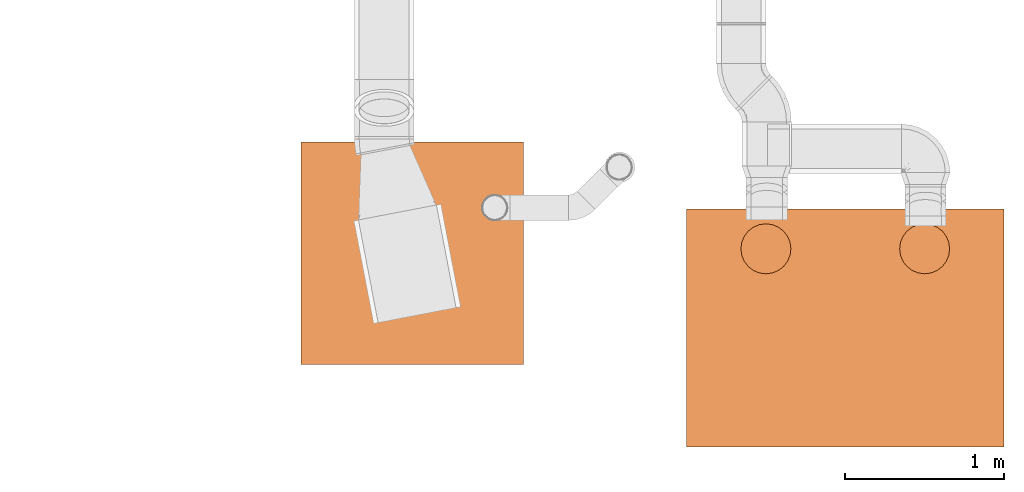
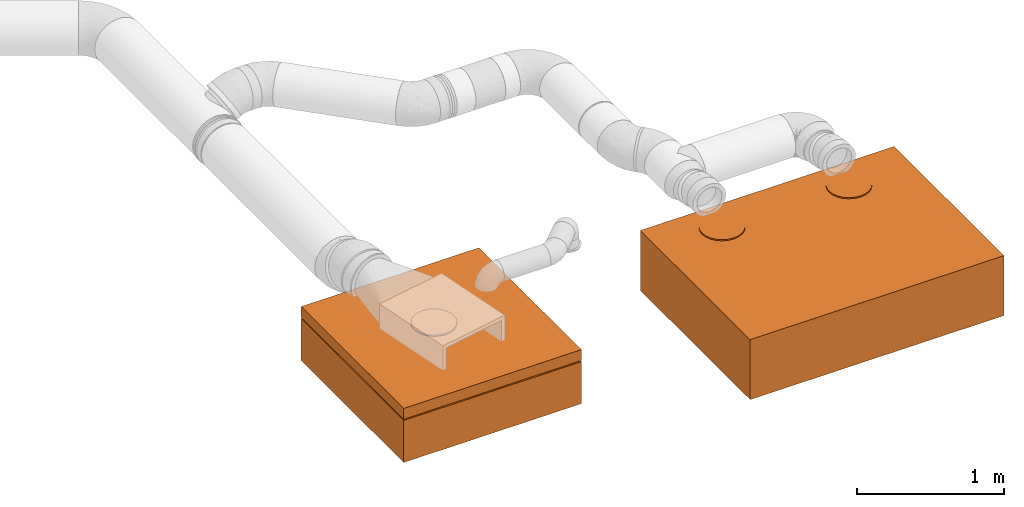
# One storey, part 21 of 21: 2 proxies.
"""IFC2X3 building model written with IfcOpenShell, lengths in millimetres."""

import ifcopenshell
import ifcopenshell.guid

model = None  # the IFC model being written
_history = None  # IfcOwnerHistory: only IFC2X3 demands one
_inside = {}  # id of a spatial element -> (the spatial element, [elements in it])
_under = {}  # id of a project, library or spatial element -> (it, [spatial elements below it])
_declared = {}  # id of a project -> (the project, [libraries it declares])
_typed = {}  # id of a type object -> (the type object, [elements of that type])
_made_of = {}  # id of a material, layer set ... -> (it, [elements and type objects made of it])


def new_model(schema):
    """Start an empty IFC model of exactly this schema.

    Asked for "IFC4X3", IfcOpenShell would pick the latest addendum, in which some entities
    have other attributes; the version numbers below select the first issue.
    IFC2X3 requires an IfcOwnerHistory on every rooted entity: one is made here for all.
    """
    global model, _history
    if schema == "IFC4X3":
        model = ifcopenshell.file(schema_version=(4, 3, 0, 0))
    else:
        model = ifcopenshell.file(schema=schema)
    _inside.clear()
    _under.clear()
    _declared.clear()
    _typed.clear()
    _made_of.clear()
    _history = None
    if model.schema == "IFC2X3":
        org = make("IfcOrganization", Name="unknown")
        user = make(
            "IfcPersonAndOrganization",
            ThePerson=make("IfcPerson", FamilyName="unknown"),
            TheOrganization=org,
        )
        app = make(
            "IfcApplication",
            ApplicationDeveloper=org,
            Version="unknown",
            ApplicationFullName="unknown",
            ApplicationIdentifier="unknown",
        )
        _history = make(
            "IfcOwnerHistory",
            OwningUser=user,
            OwningApplication=app,
            ChangeAction="ADDED",
            CreationDate=0,
        )
    return model


def make(cls, **values):
    """One entity of the class cls with the attributes given. An attribute that is None is left unset."""
    return model.create_entity(
        cls, **{name: value for name, value in values.items() if value is not None}
    )


def entity(cls, *values):
    """Any entity or typed value of the class cls, its attributes in the order of the schema. None: left unset."""
    e = model.create_entity(cls)
    for i, value in enumerate(values):
        if value is not None:
            e[i] = value
    return e


def rooted(cls, **values):
    """An entity with a GlobalId (a new one), such as an element, a storey or a relation."""
    return make(cls, GlobalId=ifcopenshell.guid.new(), OwnerHistory=_history, **values)


def si_unit(unit_type, name, prefix=None):
    """IfcSIUnit, for example si_unit("LENGTHUNIT", "METRE", prefix="MILLI")."""
    return make("IfcSIUnit", UnitType=unit_type, Prefix=prefix, Name=name)


def converted_unit(unit_type, name, factor, base, dimensions=None, offset=None):
    """IfcConversionBasedUnit, such as the inch: factor (a typed value) times the base unit."""
    return make(
        "IfcConversionBasedUnit"
        if offset is None
        else "IfcConversionBasedUnitWithOffset",
        ConversionOffset=offset,
        Dimensions=None
        if dimensions is None
        else entity("IfcDimensionalExponents", *dimensions),
        UnitType=unit_type,
        Name=name,
        ConversionFactor=make(
            "IfcMeasureWithUnit", ValueComponent=factor, UnitComponent=base
        ),
    )


def derived_unit(unit_type, elements):
    """IfcDerivedUnit: a product of units, each with its exponent."""
    return make(
        "IfcDerivedUnit",
        Elements=[
            make("IfcDerivedUnitElement", Unit=unit, Exponent=power)
            for unit, power in elements
        ],
        UnitType=unit_type,
    )


def assignment(units):
    """IfcUnitAssignment: the units of a project."""
    return None if units is None else make("IfcUnitAssignment", Units=units)


def point(xyz):
    """IfcCartesianPoint."""
    return None if xyz is None else make("IfcCartesianPoint", Coordinates=xyz)


def direction(xyz):
    """IfcDirection."""
    return None if xyz is None else make("IfcDirection", DirectionRatios=xyz)


def frame(location, z_axis=None, x_axis=None):
    """IfcAxis2Placement3D, a coordinate frame: its origin and axes. An axis left out is left unset."""
    return make(
        "IfcAxis2Placement3D",
        Location=point(location),
        Axis=direction(z_axis),
        RefDirection=direction(x_axis),
    )


def origin_with_axes():
    """The frame at (0, 0, 0) with the z axis (0, 0, 1) and the x axis (1, 0, 0) written out."""
    return frame((0.0, 0.0, 0.0), z_axis=(0.0, 0.0, 1.0), x_axis=(1.0, 0.0, 0.0))


def place(relative_to, where):
    """IfcLocalPlacement: puts the frame where relative to a parent placement (None: the world)."""
    return make(
        "IfcLocalPlacement", PlacementRelTo=relative_to, RelativePlacement=where
    )


def context(
    kind, dimensions, precision=None, world=None, true_north=None, identifier=None
):
    """IfcGeometricRepresentationContext, for example the 3D "Model" context."""
    return make(
        "IfcGeometricRepresentationContext",
        ContextIdentifier=identifier,
        ContextType=kind,
        CoordinateSpaceDimension=dimensions,
        Precision=precision,
        WorldCoordinateSystem=world,
        TrueNorth=true_north,
    )


def subcontext(parent, identifier, kind, view, scale=None):
    """IfcGeometricRepresentationSubContext, for example "Body" below "Model"."""
    return make(
        "IfcGeometricRepresentationSubContext",
        ContextIdentifier=identifier,
        ContextType=kind,
        ParentContext=parent,
        TargetScale=scale,
        TargetView=view,
    )


def project(units=None, contexts=None):
    """IfcProject with its units and contexts."""
    return rooted(
        "IfcProject",
        Name="project",
        RepresentationContexts=contexts,
        UnitsInContext=assignment(units),
    )


def spatial(cls, under=None, at=None, **own):
    """A site, building, storey or space (cls), placed at a placement, below another one or the project."""
    s = rooted(cls, ObjectPlacement=at, **own)
    if under is not None:
        _under.setdefault(under.id(), (under, []))[1].append(s)
    return s


def faces_of(points, faces, orient=None, outer=None):
    """IfcFace entities. A face is a list of loops; a loop is a list of indices into points, from 0.

    orient and outer hold one flag for each loop. By default every Orientation is true, the
    first loop of a face is its IfcFaceOuterBound and the others are IfcFaceBound.
    """
    made = []
    for i, loops in enumerate(faces):
        bounds = []
        for j, loop in enumerate(loops):
            is_outer = j == 0 if outer is None else outer[i][j]
            bounds.append(
                make(
                    "IfcFaceOuterBound" if is_outer else "IfcFaceBound",
                    Bound=make("IfcPolyLoop", Polygon=[points[k] for k in loop]),
                    Orientation=True if orient is None else orient[i][j],
                )
            )
        made.append(make("IfcFace", Bounds=bounds))
    return made


def open_shell(faces, orient=None, outer=None):
    """The faces of one IfcOpenShell. surface_model builds it on its shared points."""
    return ("IfcOpenShell", faces, orient, outer)


def surface_model(cls, points, shells):
    """IfcFaceBasedSurfaceModel or IfcShellBasedSurfaceModel (cls): surfaces that need not close."""
    shared = [point(p) for p in points]
    made = [make(c, CfsFaces=faces_of(shared, fs, o, b)) for c, fs, o, b in shells]
    if cls == "IfcFaceBasedSurfaceModel":
        return make(cls, FbsmFaces=made)
    return make(cls, SbsmBoundary=made)


def shape(context_of_items, identifier, shape_type, items):
    """IfcShapeRepresentation: the items that make up one representation, for example the "Body"."""
    return make(
        "IfcShapeRepresentation",
        ContextOfItems=context_of_items,
        RepresentationIdentifier=identifier,
        RepresentationType=shape_type,
        Items=items,
    )


def source(mapping_origin, context_of_items, identifier, shape_type, items):
    """IfcRepresentationMap: a shape defined once, which mapped items show again and again."""
    return make(
        "IfcRepresentationMap",
        MappingOrigin=mapping_origin,
        MappedRepresentation=shape(context_of_items, identifier, shape_type, items),
    )


def transform(
    local_origin,
    x_axis=None,
    y_axis=None,
    z_axis=None,
    scale=None,
    scale2=None,
    scale3=None,
    uniform=True,
):
    """IfcCartesianTransformationOperator3D, or its non-uniform kind. x_axis, y_axis, z_axis: its Axis1, 2, 3."""
    if uniform:
        return make(
            "IfcCartesianTransformationOperator3D",
            Axis1=direction(x_axis),
            Axis2=direction(y_axis),
            LocalOrigin=point(local_origin),
            Scale=scale,
            Axis3=direction(z_axis),
        )
    return make(
        "IfcCartesianTransformationOperator3DnonUniform",
        Axis1=direction(x_axis),
        Axis2=direction(y_axis),
        LocalOrigin=point(local_origin),
        Scale=scale,
        Axis3=direction(z_axis),
        Scale2=scale2,
        Scale3=scale3,
    )


def mapped(mapping_source, mapping_target):
    """IfcMappedItem: shows the shape of a source again, moved by a transform."""
    return make(
        "IfcMappedItem", MappingSource=mapping_source, MappingTarget=mapping_target
    )


def made_of(thing, what):
    """Note that an element or type object is made of a material, layer set ...; save() writes the relation."""
    if what is not None:
        _made_of.setdefault(what.id(), (what, []))[1].append(thing)
    return thing


def element(
    cls,
    number,
    at=None,
    inside=None,
    cuts=None,
    type_object=None,
    material=None,
    context=None,
    identifier="Body",
    shape_type=None,
    held_by="IfcProductDefinitionShape",
    body=None,
    shapes=None,
    **own,
):
    """One element of the class cls, such as IfcWall. Its Tag is "e" and its number.

    at: its placement. inside: the storey or other place that contains it. cuts: it is an
    opening in that element (IfcRelVoidsElement). A single representation is given by context,
    identifier, shape_type and body (its items); several are given by shapes. held_by: the class
    of the entity that holds the representations. save() writes the other relations.
    """
    e = rooted(cls, Tag="e%d" % number, ObjectPlacement=at, **own)
    if body is not None:
        shapes = [shape(context, identifier, shape_type, body)]
    if shapes is not None:
        e.Representation = make(held_by, Representations=shapes)
    if inside is not None:
        _inside.setdefault(inside.id(), (inside, []))[1].append(e)
    if cuts is not None:
        rooted(
            "IfcRelVoidsElement", RelatingBuildingElement=cuts, RelatedOpeningElement=e
        )
    if type_object is not None:
        _typed.setdefault(type_object.id(), (type_object, []))[1].append(e)
    return made_of(e, material)


def aggregate(whole, parts):
    """IfcRelAggregates: a whole, such as a stair, and the parts it consists of."""
    return rooted("IfcRelAggregates", RelatingObject=whole, RelatedObjects=parts)


def save(model, path):
    """Write the relations noted so far, then the file.

    IfcRelAggregates (storeys below a building ...), IfcRelContainedInSpatialStructure (elements
    in a storey), IfcRelDefinesByType, IfcRelAssociatesMaterial and IfcRelDeclares: one each for
    every whole, place, type object, material and project.
    """
    for whole, parts in _under.values():
        aggregate(whole, parts)
    for where, things in _inside.values():
        rooted(
            "IfcRelContainedInSpatialStructure",
            RelatedElements=things,
            RelatingStructure=where,
        )
    for kind, things in _typed.values():
        rooted("IfcRelDefinesByType", RelatedObjects=things, RelatingType=kind)
    for what, things in _made_of.values():
        rooted("IfcRelAssociatesMaterial", RelatedObjects=things, RelatingMaterial=what)
    for by, libraries in _declared.values():
        rooted("IfcRelDeclares", RelatingContext=by, RelatedDefinitions=libraries)
    model.write(path)


model = new_model("IFC2X3")

# Units and contexts
model_context = context("Model", 3, precision=0.01, world=frame((0.0, 4.29681676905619e-09, 0.0)), true_north=direction((4.01073788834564e-13, 1.0)))
plan_context = context("Plan", 3, precision=0.01, world=frame((0.0, 4.29681676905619e-09, 0.0)), true_north=direction((4.01073788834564e-13, 1.0)))
body_context = subcontext(model_context, "Body", "Model", "MODEL_VIEW")
ifc_project = project(units=[converted_unit("PLANEANGLEUNIT", "DEGREE", entity("IfcPositiveLengthMeasure", 0.0174532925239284), si_unit("PLANEANGLEUNIT", "RADIAN"), dimensions=[0, 0, 0, 0, 0, 0, 0]), si_unit("AREAUNIT", "SQUARE_METRE"), si_unit("LENGTHUNIT", "METRE", prefix="MILLI"), si_unit("MASSUNIT", "GRAM", prefix="KILO"), si_unit("POWERUNIT", "WATT"), si_unit("PRESSUREUNIT", "PASCAL"), si_unit("FORCEUNIT", "NEWTON", prefix="KILO"), si_unit("ELECTRICVOLTAGEUNIT", "VOLT"), si_unit("ELECTRICCURRENTUNIT", "AMPERE"), si_unit("THERMODYNAMICTEMPERATUREUNIT", "DEGREE_CELSIUS"), si_unit("TIMEUNIT", "SECOND"), si_unit("VOLUMEUNIT", "CUBIC_METRE"), derived_unit("LINEARVELOCITYUNIT", [(si_unit("LENGTHUNIT", "METRE"), 1), (si_unit("TIMEUNIT", "SECOND"), -1)]), derived_unit("VOLUMETRICFLOWRATEUNIT", [(si_unit("VOLUMEUNIT", "CUBIC_METRE"), 1), (si_unit("TIMEUNIT", "SECOND"), -1)]), derived_unit("THERMALTRANSMITTANCEUNIT", [(si_unit("POWERUNIT", "WATT"), 1), (si_unit("THERMODYNAMICTEMPERATUREUNIT", "KELVIN"), -1), (si_unit("AREAUNIT", "SQUARE_METRE"), -1)]), derived_unit("SOUNDPRESSUREUNIT", [(si_unit("PRESSUREUNIT", "PASCAL"), 1)])], contexts=[model_context, plan_context])

# Site, building, storey
site_placement = place(None, frame((0.0, -4.29681676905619e-09, 0.0), z_axis=(0.0, 0.0, 1.0), x_axis=(1.0, 0.0, 0.0)))
site = spatial("IfcSite", under=ifc_project, at=site_placement, Name="ENGM", CompositionType="ELEMENT")
building_placement = place(site_placement, frame((0.0, 4.29681676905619e-09, 0.0), z_axis=(0.0, 0.0, 1.0), x_axis=(1.0, 0.0, 0.0)))
building = spatial("IfcBuilding", under=site, at=building_placement, Name="TI", CompositionType="ELEMENT")
storey_placement = place(building_placement, frame((0.0, 0.0, 210900.0), z_axis=(0.0, 0.0, 1.0), x_axis=(1.0, 0.0, 0.0)))
storey = spatial("IfcBuildingStorey", under=building, at=storey_placement, Name="Nivå F", CompositionType="ELEMENT", Elevation=210900.0)

# Proxies
shared_shape_1 = source(origin_with_axes(), body_context, "Body", "SurfaceModel", [
    surface_model("IfcShellBasedSurfaceModel", [(540.76401, 397.86667, 560.00001), (578.74999, 413.60099, 560.00001), (611.3693, 438.63068, 560.00001), (500.0, 392.49999, 560.00001), (636.39902, 471.25001, 560.00001), (652.1333, 509.236, 560.00001), (657.49998, 550.0, 560.00001), (363.60099, 471.25001, 560.00001), (652.1333, 590.76401, 560.00001), (459.23599, 397.86667, 560.00001), (421.25001, 413.60099, 560.00001), (388.63068, 438.63068, 560.00001), (342.49999, 550.0, 560.00001), (347.86667, 509.236, 560.00001), (540.76401, 702.13331, 560.00001), (636.39902, 628.74999, 560.00001), (578.74999, 686.39902, 560.00001), (611.3693, 661.3693, 560.00001), (388.63068, 661.3693, 560.00001), (459.23599, 702.13331, 560.00001), (500.0, 707.49998, 560.00001), (347.86667, 590.76401, 560.00001), (363.60099, 628.74999, 560.00001), (421.25001, 686.39902, 560.00001), (540.76401, 702.13331, 550.0), (459.23599, 702.13331, 550.0), (500.0, 707.49998, 550.0), (636.39902, 628.74999, 550.0), (578.74999, 686.39902, 550.0), (652.1333, 590.76401, 550.0), (611.3693, 661.3693, 550.0), (363.60099, 471.25001, 550.0), (388.63068, 661.3693, 550.0), (421.25001, 686.39902, 550.0), (347.86667, 590.76401, 550.0), (363.60099, 628.74999, 550.0), (342.49999, 550.0, 550.0), (657.49998, 550.0, 550.0), (652.1333, 509.236, 550.0), (636.39902, 471.25001, 550.0), (611.3693, 438.63068, 550.0), (578.74999, 413.60099, 550.0), (540.76401, 397.86667, 550.0), (459.23599, 397.86667, 550.0), (500.0, 392.49999, 550.0), (421.25001, 413.60099, 550.0), (388.63068, 438.63068, 550.0), (347.86667, 509.236, 550.0), (1578.75, 413.60099, 560.00001), (1500.00001, 392.49999, 560.00001), (1540.76395, 397.86667, 560.00001), (1611.36938, 438.63068, 560.00001), (1347.86671, 509.236, 560.00001), (1636.39895, 471.25001, 560.00001), (1652.13331, 509.236, 560.00001), (1657.49999, 550.0, 560.00001), (1347.86671, 590.76401, 560.00001), (1421.25002, 413.60099, 560.00001), (1459.23593, 397.86667, 560.00001), (1363.60107, 471.25001, 560.00001), (1388.63065, 438.63068, 560.00001), (1636.39895, 628.74999, 560.00001), (1578.75, 686.39902, 560.00001), (1611.36938, 661.3693, 560.00001), (1540.76395, 702.13331, 560.00001), (1459.23593, 702.13331, 560.00001), (1500.00001, 707.49998, 560.00001), (1363.60107, 628.74999, 560.00001), (1342.50003, 550.0, 560.00001), (1388.63065, 661.3693, 560.00001), (1421.25002, 686.39902, 560.00001), (1652.13331, 590.76401, 560.00001), (1540.76395, 702.13331, 550.0), (1459.23593, 702.13331, 550.0), (1500.00001, 707.49998, 550.0), (1578.75, 686.39902, 550.0), (1347.86671, 590.76401, 550.0), (1347.86671, 509.236, 550.0), (1636.39895, 628.74999, 550.0), (1611.36938, 661.3693, 550.0), (1388.63065, 661.3693, 550.0), (1421.25002, 686.39902, 550.0), (1363.60107, 628.74999, 550.0), (1342.50003, 550.0, 550.0), (1652.13331, 590.76401, 550.0), (1657.49999, 550.0, 550.0), (1652.13331, 509.236, 550.0), (1636.39895, 471.25001, 550.0), (1611.36938, 438.63068, 550.0), (1578.75, 413.60099, 550.0), (1540.76395, 397.86667, 550.0), (1500.00001, 392.49999, 550.0), (1363.60107, 471.25001, 550.0), (1421.25002, 413.60099, 550.0), (1388.63065, 438.63068, 550.0), (1459.23593, 397.86667, 550.0), (0.0, 300.0, 550.0), (2000.00002, 300.0, 550.0), (0.0, 1800.00001, 550.0), (2000.00002, 1800.00001, 550.0), (0.0, 1800.00001, 50.48458), (2000.00002, 1800.00001, 50.48458), (0.0, 300.0, 50.48458), (2000.00002, 300.0, 50.48458)], [open_shell([[[0, 1, 2]], [[3, 0, 2]], [[4, 5, 6]], [[2, 4, 7]], [[4, 8, 7]], [[9, 7, 10]], [[9, 3, 2]], [[10, 7, 11]], [[2, 7, 9]], [[7, 12, 13]], [[8, 4, 6]], [[14, 8, 15]], [[16, 15, 17]], [[14, 18, 7]], [[14, 15, 16]], [[19, 14, 20]], [[21, 18, 22]], [[18, 21, 12]], [[18, 19, 23]], [[12, 7, 18]], [[14, 19, 18]], [[7, 8, 14]], [[24, 25, 26]], [[27, 24, 28]], [[27, 29, 24]], [[27, 28, 30]], [[31, 32, 24]], [[25, 32, 33]], [[25, 24, 32]], [[32, 34, 35]], [[34, 32, 36]], [[32, 31, 36]], [[31, 24, 29]], [[37, 38, 39]], [[29, 39, 40]], [[40, 41, 42]], [[40, 43, 29]], [[42, 44, 40]], [[31, 45, 46]], [[47, 36, 31]], [[31, 43, 45]], [[29, 43, 31]], [[44, 43, 40]], [[39, 29, 37]], [[47, 13, 36]], [[31, 7, 47]], [[10, 46, 45]], [[31, 46, 11]], [[9, 45, 43]], [[47, 7, 13]], [[13, 12, 36]], [[9, 10, 45]], [[11, 46, 10]], [[11, 7, 31]], [[3, 9, 43]], [[43, 44, 3]], [[42, 0, 44]], [[41, 1, 42]], [[4, 40, 39]], [[41, 40, 2]], [[5, 39, 38]], [[41, 2, 1]], [[1, 0, 42]], [[6, 5, 38]], [[4, 39, 5]], [[4, 2, 40]], [[37, 6, 38]], [[44, 0, 3]], [[29, 8, 37]], [[27, 15, 29]], [[16, 30, 28]], [[27, 30, 17]], [[14, 28, 24]], [[29, 15, 8]], [[8, 6, 37]], [[14, 16, 28]], [[17, 30, 16]], [[17, 15, 27]], [[20, 14, 24]], [[24, 26, 20]], [[19, 26, 25]], [[22, 35, 34]], [[35, 18, 32]], [[21, 34, 36]], [[25, 23, 19]], [[23, 25, 33]], [[23, 33, 18]], [[33, 32, 18]], [[35, 22, 18]], [[21, 22, 34]], [[36, 12, 21]], [[26, 19, 20]], [[48, 49, 50]], [[51, 52, 48]], [[53, 54, 55]], [[52, 51, 53]], [[53, 56, 52]], [[49, 57, 58]], [[49, 48, 57]], [[57, 59, 60]], [[59, 57, 52]], [[48, 52, 57]], [[53, 55, 61]], [[61, 62, 53]], [[62, 61, 63]], [[56, 53, 64]], [[53, 62, 64]], [[65, 64, 66]], [[56, 65, 67]], [[68, 52, 56]], [[69, 65, 70]], [[65, 69, 67]], [[64, 65, 56]], [[61, 55, 71]], [[72, 73, 74]], [[75, 76, 72]], [[77, 76, 75]], [[78, 75, 79]], [[77, 75, 78]], [[73, 80, 81]], [[80, 73, 82]], [[73, 76, 82]], [[73, 72, 76]], [[76, 77, 83]], [[78, 84, 85]], [[85, 86, 87]], [[78, 87, 77]], [[77, 88, 89]], [[88, 77, 87]], [[90, 91, 89]], [[92, 93, 94]], [[93, 92, 77]], [[93, 91, 95]], [[93, 77, 89]], [[89, 91, 93]], [[87, 78, 85]], [[77, 52, 83]], [[92, 59, 77]], [[57, 94, 93]], [[92, 94, 60]], [[58, 93, 95]], [[77, 59, 52]], [[52, 68, 83]], [[58, 57, 93]], [[60, 94, 57]], [[60, 59, 92]], [[49, 58, 95]], [[95, 91, 49]], [[90, 50, 91]], [[89, 48, 90]], [[53, 88, 87]], [[89, 88, 51]], [[54, 87, 86]], [[89, 51, 48]], [[48, 50, 90]], [[55, 54, 86]], [[53, 87, 54]], [[53, 51, 88]], [[85, 55, 86]], [[91, 50, 49]], [[84, 71, 85]], [[78, 61, 84]], [[62, 79, 75]], [[78, 79, 63]], [[64, 75, 72]], [[84, 61, 71]], [[71, 55, 85]], [[64, 62, 75]], [[63, 79, 62]], [[63, 61, 78]], [[66, 64, 72]], [[72, 74, 66]], [[65, 74, 73]], [[67, 82, 76]], [[82, 69, 80]], [[56, 76, 83]], [[73, 70, 65]], [[70, 73, 81]], [[70, 81, 69]], [[81, 80, 69]], [[82, 67, 69]], [[56, 67, 76]], [[83, 68, 56]], [[74, 65, 66]], [[96, 97, 98]], [[99, 98, 97]], [[100, 101, 102]], [[103, 102, 101]], [[99, 97, 101]], [[103, 101, 97]], [[98, 99, 101]], [[101, 100, 98]], [[96, 98, 102]], [[100, 102, 98]], [[97, 96, 102]], [[102, 103, 97]]])]),
])
proxy_1_placement = place(storey_placement, frame((611224.64066, 691112.49978, 1970.0), z_axis=(0.0, 0.0, 1.0), x_axis=(-1.0, 0.0, 0.0)))
element("IfcBuildingElementProxy", 1, at=proxy_1_placement, inside=storey, Name="hette 1100-2000-550 2ø315", context=body_context, shape_type="MappedRepresentation", body=[
    mapped(shared_shape_1, transform((0.0, 0.0, 0.0), scale=1.0)),
])
shared_shape_2 = source(origin_with_axes(), body_context, "Body", "SurfaceModel", [
    surface_model("IfcShellBasedSurfaceModel", [(1400.00001, 5.0, 340.0), (1400.00001, 1400.30958, 340.0), (5.0, 1400.30958, 340.0), (5.0, 5.0, 340.0), (5.0, 5.0, 0.0), (5.0, 1400.30958, 0.0), (1400.00001, 1400.30958, 0.0), (1400.00001, 5.0, 0.0), (771.87411, 641.38789, 360.00001), (709.27851, 625.00211, 360.00001), (741.65495, 629.07454, 360.00001), (817.89063, 686.87624, 360.00001), (797.87673, 661.10296, 360.00001), (830.55199, 716.95122, 360.00001), (834.99794, 749.27854, 360.00001), (585.00208, 750.72147, 360.00001), (621.10293, 662.12332, 360.00001), (646.87621, 642.10935, 360.00001), (676.95127, 629.44799, 360.00001), (589.07455, 718.34503, 360.00001), (601.38789, 688.12588, 360.00001), (710.72152, 874.9979, 360.00001), (818.6121, 811.87414, 360.00001), (798.89702, 837.87669, 360.00001), (743.04876, 870.55195, 360.00001), (773.12381, 857.89066, 360.00001), (589.44803, 783.04872, 360.00001), (622.12329, 838.89705, 360.00001), (602.10936, 813.12377, 360.00001), (678.34508, 870.92547, 360.00001), (648.12585, 858.61213, 360.00001), (830.92544, 781.6549, 360.00001), (798.89702, 837.87669, 350.0), (710.72152, 874.9979, 350.0), (743.04876, 870.55195, 350.0), (773.12381, 857.89066, 350.0), (818.6121, 811.87414, 350.0), (585.00208, 750.72147, 350.0), (834.99794, 749.27854, 350.0), (678.34508, 870.92547, 350.0), (622.12329, 838.89705, 350.0), (648.12585, 858.61213, 350.0), (589.44803, 783.04872, 350.0), (602.10936, 813.12377, 350.0), (830.92544, 781.6549, 350.0), (830.55199, 716.95122, 350.0), (817.89063, 686.87624, 350.0), (771.87411, 641.38789, 350.0), (621.10293, 662.12332, 350.0), (797.87673, 661.10296, 350.0), (709.27851, 625.00211, 350.0), (741.65495, 629.07454, 350.0), (589.07455, 718.34503, 350.0), (601.38789, 688.12588, 350.0), (646.87621, 642.10935, 350.0), (676.95127, 629.44799, 350.0), (753.92593, 597.92121, 510.00001), (791.91198, 613.65549, 510.00001), (824.53128, 638.68522, 510.00001), (849.56093, 671.30452, 510.00001), (601.79263, 861.4238, 510.00001), (634.41193, 613.65549, 510.00001), (865.29529, 709.2905, 510.00001), (865.29529, 790.81852, 510.00001), (672.39798, 597.92121, 510.00001), (713.16192, 592.55453, 510.00001), (601.79263, 638.68522, 510.00001), (561.02866, 709.2905, 510.00001), (576.76294, 671.30452, 510.00001), (561.02866, 790.81852, 510.00001), (870.66197, 750.05451, 510.00001), (849.56093, 828.8045, 510.00001), (824.53128, 861.4238, 510.00001), (791.91198, 886.45352, 510.00001), (753.92593, 902.18781, 510.00001), (713.16192, 907.55449, 510.00001), (576.76294, 828.8045, 510.00001), (555.66194, 750.05451, 510.00001), (634.41193, 886.45352, 510.00001), (672.39798, 902.18781, 510.00001), (713.16192, 907.55449, 500.0), (753.92593, 902.18781, 500.0), (791.91198, 886.45352, 500.0), (601.79263, 861.4238, 500.0), (824.53128, 861.4238, 500.0), (849.56093, 828.8045, 500.0), (865.29529, 790.81852, 500.0), (634.41193, 886.45352, 500.0), (672.39798, 902.18781, 500.0), (561.02866, 790.81852, 500.0), (576.76294, 828.8045, 500.0), (601.79263, 638.68522, 500.0), (561.02866, 709.2905, 500.0), (555.66194, 750.05451, 500.0), (849.56093, 671.30452, 500.0), (865.29529, 709.2905, 500.0), (634.41193, 613.65549, 500.0), (824.53128, 638.68522, 500.0), (791.91198, 613.65549, 500.0), (753.92593, 597.92121, 500.0), (576.76294, 671.30452, 500.0), (672.39798, 597.92121, 500.0), (713.16192, 592.55453, 500.0), (870.66197, 750.05451, 500.0), (0.0, 0.30963, 450.0), (1400.00001, 0.30963, 450.0), (1400.00001, 1400.30958, 450.0), (0.0, 1400.30958, 450.0), (0.0, 1400.30958, 0.0), (1400.00001, 0.30963, 0.0), (0.0, 0.30963, 0.0), (1400.00001, 0.30963, 360.00001), (1400.00001, 1400.30958, 360.00001), (1400.00001, 1400.30958, 350.0), (1400.00001, 0.30963, 350.0), (0.0, 1400.30958, 360.00001), (0.0, 1400.30958, 350.0), (0.0, 0.30963, 360.00001), (0.0, 0.30963, 350.0)], [open_shell([[[0, 1, 2]], [[2, 3, 0]], [[4, 5, 6]], [[6, 7, 4]], [[2, 1, 5]], [[6, 5, 1]], [[3, 2, 5]], [[5, 4, 3]], [[0, 3, 7]], [[4, 7, 3]], [[1, 0, 7]], [[7, 6, 1]], [[8, 9, 10]], [[11, 8, 12]], [[11, 13, 14]], [[8, 11, 15]], [[8, 15, 16]], [[9, 17, 18]], [[17, 9, 16]], [[16, 19, 20]], [[16, 9, 8]], [[16, 15, 19]], [[21, 11, 14]], [[14, 22, 21]], [[21, 22, 23]], [[24, 21, 23]], [[24, 23, 25]], [[11, 21, 15]], [[26, 27, 28]], [[27, 26, 15]], [[27, 29, 30]], [[27, 15, 21]], [[21, 29, 27]], [[22, 14, 31]], [[32, 33, 34]], [[32, 34, 35]], [[33, 36, 37]], [[36, 33, 32]], [[38, 37, 36]], [[39, 40, 41]], [[39, 33, 40]], [[40, 42, 43]], [[42, 40, 37]], [[33, 37, 40]], [[36, 44, 38]], [[38, 45, 46]], [[46, 47, 37]], [[47, 48, 37]], [[47, 46, 49]], [[50, 47, 51]], [[52, 48, 53]], [[37, 48, 52]], [[54, 50, 55]], [[50, 54, 48]], [[47, 50, 48]], [[46, 37, 38]], [[52, 19, 37]], [[53, 20, 52]], [[17, 48, 54]], [[53, 48, 16]], [[18, 54, 55]], [[52, 20, 19]], [[19, 15, 37]], [[18, 17, 54]], [[16, 48, 17]], [[16, 20, 53]], [[9, 18, 55]], [[55, 50, 9]], [[51, 10, 50]], [[47, 8, 51]], [[11, 49, 46]], [[47, 49, 12]], [[13, 46, 45]], [[47, 12, 8]], [[8, 10, 51]], [[14, 13, 45]], [[11, 46, 13]], [[11, 12, 49]], [[38, 14, 45]], [[50, 10, 9]], [[44, 31, 38]], [[36, 22, 44]], [[25, 32, 35]], [[36, 32, 23]], [[24, 35, 34]], [[44, 22, 31]], [[31, 14, 38]], [[24, 25, 35]], [[23, 32, 25]], [[23, 22, 36]], [[21, 24, 34]], [[34, 33, 21]], [[39, 29, 33]], [[41, 30, 39]], [[28, 40, 43]], [[41, 40, 27]], [[26, 43, 42]], [[41, 27, 30]], [[30, 29, 39]], [[15, 26, 42]], [[28, 43, 26]], [[28, 27, 40]], [[37, 15, 42]], [[33, 29, 21]], [[56, 57, 58]], [[56, 58, 59]], [[59, 60, 61]], [[59, 61, 56]], [[59, 62, 63]], [[56, 64, 65]], [[56, 61, 64]], [[66, 67, 68]], [[69, 66, 61]], [[69, 67, 66]], [[62, 70, 63]], [[63, 71, 72]], [[63, 72, 73]], [[73, 74, 75]], [[63, 73, 60]], [[60, 73, 75]], [[69, 60, 76]], [[77, 67, 69]], [[75, 78, 60]], [[61, 60, 69]], [[79, 78, 75]], [[59, 63, 60]], [[80, 81, 82]], [[83, 80, 82]], [[84, 85, 86]], [[84, 86, 82]], [[83, 82, 86]], [[80, 87, 88]], [[80, 83, 87]], [[83, 89, 90]], [[83, 91, 89]], [[89, 92, 93]], [[94, 83, 86]], [[95, 94, 86]], [[96, 83, 94]], [[97, 98, 99]], [[97, 99, 94]], [[99, 96, 94]], [[92, 91, 100]], [[89, 91, 92]], [[99, 101, 96]], [[83, 96, 91]], [[102, 101, 99]], [[86, 103, 95]], [[92, 67, 93]], [[100, 68, 92]], [[61, 91, 96]], [[100, 91, 66]], [[64, 96, 101]], [[92, 68, 67]], [[67, 77, 93]], [[64, 61, 96]], [[66, 91, 61]], [[66, 68, 100]], [[65, 64, 101]], [[101, 102, 65]], [[99, 56, 102]], [[98, 57, 99]], [[59, 97, 94]], [[98, 97, 58]], [[62, 94, 95]], [[98, 58, 57]], [[57, 56, 99]], [[70, 62, 95]], [[59, 94, 62]], [[59, 58, 97]], [[103, 70, 95]], [[102, 56, 65]], [[86, 63, 103]], [[85, 71, 86]], [[73, 84, 82]], [[85, 84, 72]], [[74, 82, 81]], [[86, 71, 63]], [[63, 70, 103]], [[74, 73, 82]], [[72, 84, 73]], [[72, 71, 85]], [[75, 74, 81]], [[81, 80, 75]], [[79, 80, 88]], [[76, 90, 89]], [[90, 60, 83]], [[69, 89, 93]], [[88, 78, 79]], [[78, 88, 87]], [[78, 87, 60]], [[87, 83, 60]], [[90, 76, 60]], [[69, 76, 89]], [[93, 77, 69]], [[80, 79, 75]], [[104, 105, 106]], [[106, 107, 104]], [[108, 6, 109]], [[109, 110, 108]], [[106, 105, 111]], [[111, 112, 106]], [[113, 114, 109]], [[109, 6, 113]], [[107, 106, 112]], [[112, 115, 107]], [[116, 113, 6]], [[6, 108, 116]], [[104, 107, 115]], [[115, 117, 104]], [[118, 116, 108]], [[108, 110, 118]], [[105, 104, 117]], [[117, 111, 105]], [[114, 118, 110]], [[110, 109, 114]], [[113, 116, 118]], [[118, 114, 113]], [[115, 112, 111]], [[111, 117, 115]]])]),
])
proxy_2_placement = place(storey_placement, frame((608196.84802, 689835.0, 2030.0), z_axis=(0.0, 0.0, 1.0), x_axis=(0.0, 1.0, 0.0)))
element("IfcBuildingElementProxy", 2, at=proxy_2_placement, inside=storey, Name="hette 1400-1400-450", context=body_context, shape_type="MappedRepresentation", body=[
    mapped(shared_shape_2, transform((0.0, 0.0, 0.0), scale=1.0)),
])

save(model, "model.ifc")
